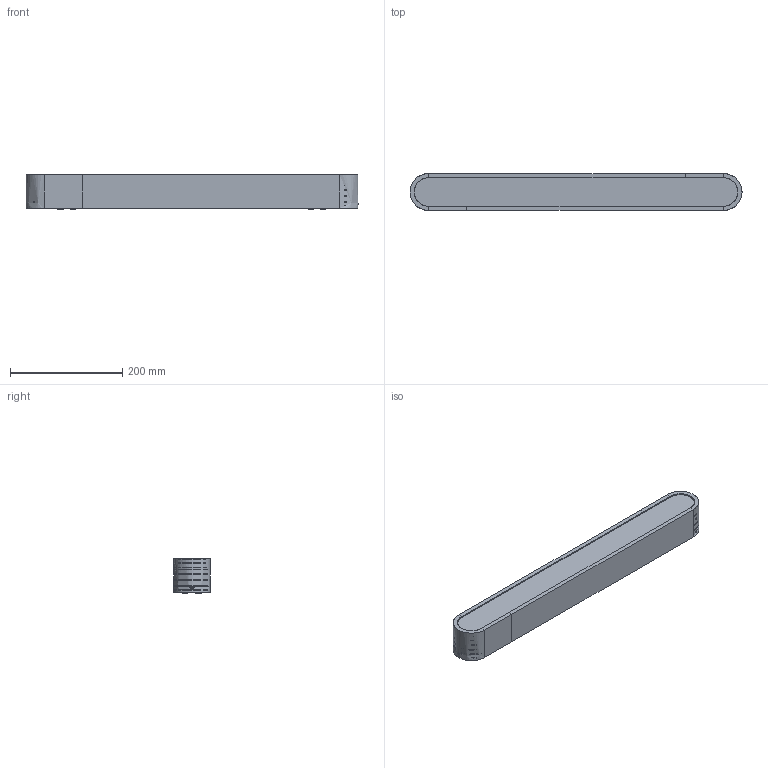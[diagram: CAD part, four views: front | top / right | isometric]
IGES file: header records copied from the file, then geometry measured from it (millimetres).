
Start section: SolidWorks IGES file using analytic representation for surfaces
Global section: file name: \\DC2003\projekty\soft\Profil 3D\Gotowe softy\SOFT 600_plafon.IGS; native system: SolidWorks 2016; preprocessor: SolidWorks 2016; author: Asia; date: 160707.150013; units: millimetre
Bounding box: 592 x 65.5 x 61.8 mm (x, y, z)
Surface area: 495663.2 mm2 (no closed solid volume)
Topology: 0 solids, 0 shells, 619 faces, 9998 edges, 9998 vertices
Faces by surface type: bspline 418, revolution 201
